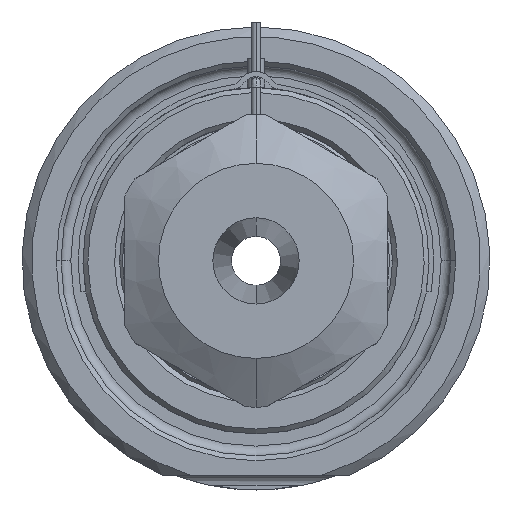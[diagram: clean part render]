
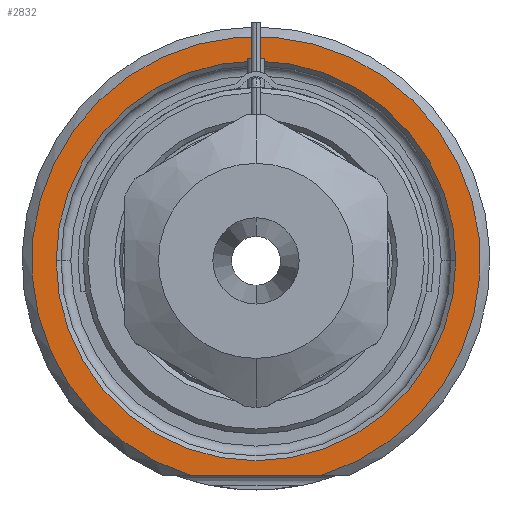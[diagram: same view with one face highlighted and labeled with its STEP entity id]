
A CAD part, front view. The second image highlights one B-rep face of the part: STEP entity #2832.
In plain terms, the highlighted planar face has unit normal (0, -1, 0).
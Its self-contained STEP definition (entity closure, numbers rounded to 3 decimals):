
#1=DIRECTION('',(1.,0.,0.));
#2=VECTOR('',#1,13.416);
#3=CARTESIAN_POINT('',(-6.708,0.,-22.));
#4=LINE('',#3,#2);
#5=CARTESIAN_POINT('',(0.,0.,0.));
#6=DIRECTION('',(0.,1.,0.));
#7=DIRECTION('',(-1.,0.,0.));
#8=AXIS2_PLACEMENT_3D('',#5,#6,#7);
#10=CARTESIAN_POINT('',(0.,0.,0.));
#11=DIRECTION('',(0.,1.,0.));
#12=DIRECTION('',(1.,0.,0.));
#13=AXIS2_PLACEMENT_3D('',#10,#11,#12);
#121=CARTESIAN_POINT('',(0.,0.,0.));
#122=DIRECTION('',(0.,-1.,0.));
#123=DIRECTION('',(0.292,0.,-0.957));
#124=AXIS2_PLACEMENT_3D('',#121,#122,#123);
#2349=CARTESIAN_POINT('',(-20.5,0.,0.));
#2350=CARTESIAN_POINT('',(20.5,0.,0.));
#2351=VERTEX_POINT('',#2349);
#2352=VERTEX_POINT('',#2350);
#2389=CARTESIAN_POINT('',(-6.708,0.,-22.));
#2390=CARTESIAN_POINT('',(6.708,0.,-22.));
#2391=VERTEX_POINT('',#2389);
#2392=VERTEX_POINT('',#2390);
#2815=CARTESIAN_POINT('',(0.,0.,0.));
#2816=DIRECTION('',(0.,-1.,0.));
#2817=DIRECTION('',(1.,0.,0.));
#2818=AXIS2_PLACEMENT_3D('',#2815,#2816,#2817);
#2819=PLANE('',#2818);
#2821=ORIENTED_EDGE('',*,*,#2820,.F.);
#2823=ORIENTED_EDGE('',*,*,#2822,.F.);
#2824=EDGE_LOOP('',(#2821,#2823));
#2825=FACE_OUTER_BOUND('',#2824,.F.);
#2827=ORIENTED_EDGE('',*,*,#2826,.F.);
#2829=ORIENTED_EDGE('',*,*,#2828,.F.);
#2830=EDGE_LOOP('',(#2827,#2829));
#2831=FACE_BOUND('',#2830,.F.);
#2832=ADVANCED_FACE('',(#2825,#2831),#2819,.T.);
#9=CIRCLE('',#8,20.5);
#14=CIRCLE('',#13,20.5);
#125=CIRCLE('',#124,23.);
#2820=EDGE_CURVE('',#2391,#2392,#4,.T.);
#2822=EDGE_CURVE('',#2392,#2391,#125,.T.);
#2826=EDGE_CURVE('',#2351,#2352,#9,.T.);
#2828=EDGE_CURVE('',#2352,#2351,#14,.T.);
